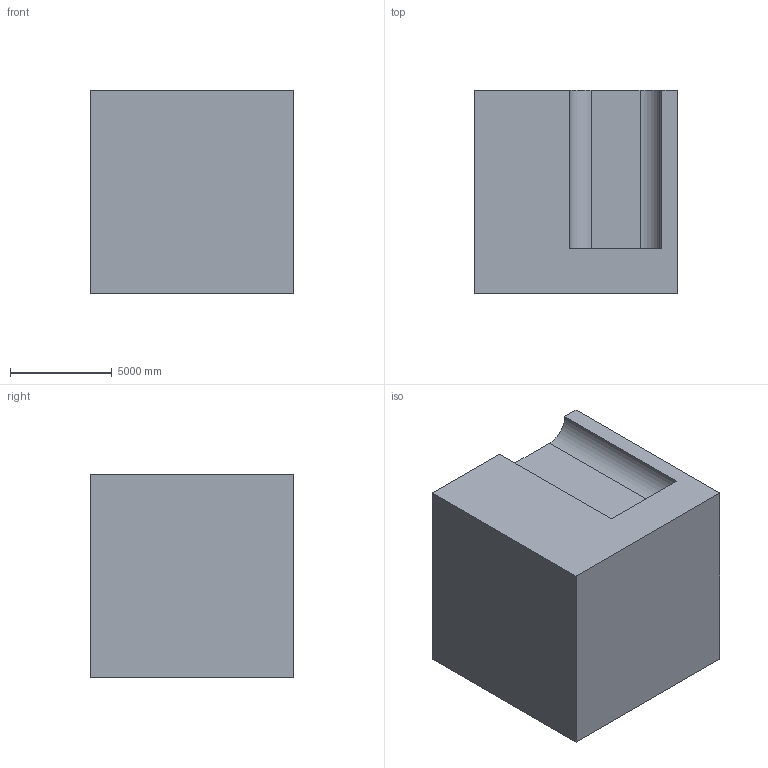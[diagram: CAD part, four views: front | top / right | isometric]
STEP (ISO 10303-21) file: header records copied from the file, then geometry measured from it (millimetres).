
FILE_DESCRIPTION (( 'STEP AP203' ), '1' );
FILE_NAME ('146.STEP', '2022-07-28T13:44:04', ( 'user' ), ( '' ), 'SwSTEP 2.0', 'SolidWorks 2021', '' );
FILE_SCHEMA (( 'CONFIG_CONTROL_DESIGN' ));
Length unit declared in the file: centimetre
Products named in the file (1): 146
Bounding box: 10000 x 10000 x 10000 mm (x, y, z)
Volume: 958185692997.8 mm3; surface area: 627097090.5 mm2
Topology: 1 solids, 1 shells, 16 faces, 36 edges, 24 vertices
Faces by surface type: plane 10, cylinder 6
Entity records: 529 total; most frequent: DIRECTION 82, CARTESIAN_POINT 77, ORIENTED_EDGE 72, EDGE_CURVE 36, AXIS2_PLACEMENT_3D 29, LINE 24, VERTEX_POINT 24, VECTOR 24
